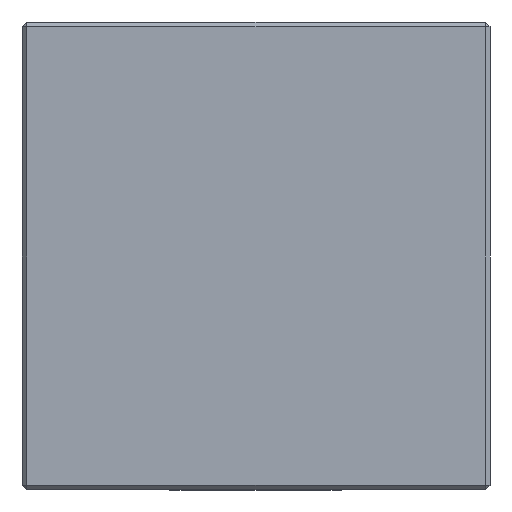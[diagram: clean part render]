
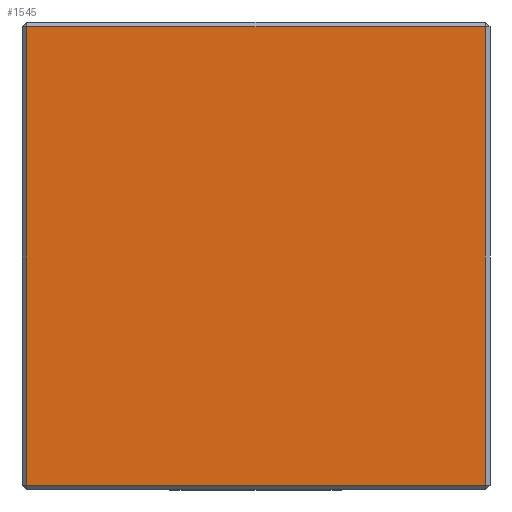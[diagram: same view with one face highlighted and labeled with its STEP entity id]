
A CAD part, left-side view. The second image highlights one B-rep face of the part: STEP entity #1545.
In plain terms, the highlighted planar face has unit normal (-1, 0, 0).
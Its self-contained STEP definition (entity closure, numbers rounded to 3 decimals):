
#48 = PLANE ( 'NONE',  #304 ) ;
#52 = EDGE_LOOP ( 'NONE', ( #786, #1516, #1389, #905 ) ) ;
#86 = CARTESIAN_POINT ( 'NONE',  ( -7.5, 0., 14.7 ) ) ;
#136 = DIRECTION ( 'NONE',  ( 0., 0., -1. ) ) ;
#141 = VERTEX_POINT ( 'NONE', #1443 ) ;
#177 = VERTEX_POINT ( 'NONE', #898 ) ;
#183 = DIRECTION ( 'NONE',  ( 0., -1., 0. ) ) ;
#195 = CARTESIAN_POINT ( 'NONE',  ( -7.5, 0., 0. ) ) ;
#223 = DIRECTION ( 'NONE',  ( 0., 0., 1. ) ) ;
#242 = VECTOR ( 'NONE', #136, 1000. ) ;
#304 = AXIS2_PLACEMENT_3D ( 'NONE', #195, #1657, #881 ) ;
#444 = LINE ( 'NONE', #1660, #242 ) ;
#599 = EDGE_CURVE ( 'NONE', #654, #732, #729, .T. ) ;
#604 = LINE ( 'NONE', #86, #1371 ) ;
#627 = EDGE_CURVE ( 'NONE', #141, #177, #604, .T. ) ;
#654 = VERTEX_POINT ( 'NONE', #1144 ) ;
#729 = LINE ( 'NONE', #857, #1149 ) ;
#732 = VERTEX_POINT ( 'NONE', #1562 ) ;
#771 = DIRECTION ( 'NONE',  ( 0., 1., 0. ) ) ;
#786 = ORIENTED_EDGE ( 'NONE', *, *, #1598, .T. ) ;
#857 = CARTESIAN_POINT ( 'NONE',  ( -7.5, -15., -14.7 ) ) ;
#881 = DIRECTION ( 'NONE',  ( 0., 0., -1. ) ) ;
#898 = CARTESIAN_POINT ( 'NONE',  ( -7.5, 14.7, 14.7 ) ) ;
#905 = ORIENTED_EDGE ( 'NONE', *, *, #599, .T. ) ;
#980 = EDGE_CURVE ( 'NONE', #177, #654, #444, .T. ) ;
#1019 = LINE ( 'NONE', #1549, #1488 ) ;
#1144 = CARTESIAN_POINT ( 'NONE',  ( -7.5, 14.7, -14.7 ) ) ;
#1149 = VECTOR ( 'NONE', #183, 1000. ) ;
#1371 = VECTOR ( 'NONE', #771, 1000. ) ;
#1389 = ORIENTED_EDGE ( 'NONE', *, *, #980, .T. ) ;
#1409 = FACE_OUTER_BOUND ( 'NONE', #52, .T. ) ;
#1443 = CARTESIAN_POINT ( 'NONE',  ( -7.5, -14.7, 14.7 ) ) ;
#1488 = VECTOR ( 'NONE', #223, 1000. ) ;
#1516 = ORIENTED_EDGE ( 'NONE', *, *, #627, .T. ) ;
#1545 = ADVANCED_FACE ( 'NONE', ( #1409 ), #48, .F. ) ;
#1549 = CARTESIAN_POINT ( 'NONE',  ( -7.5, -14.7, 0. ) ) ;
#1562 = CARTESIAN_POINT ( 'NONE',  ( -7.5, -14.7, -14.7 ) ) ;
#1598 = EDGE_CURVE ( 'NONE', #732, #141, #1019, .T. ) ;
#1657 = DIRECTION ( 'NONE',  ( 1., 0., 0. ) ) ;
#1660 = CARTESIAN_POINT ( 'NONE',  ( -7.5, 14.7, -15. ) ) ;
